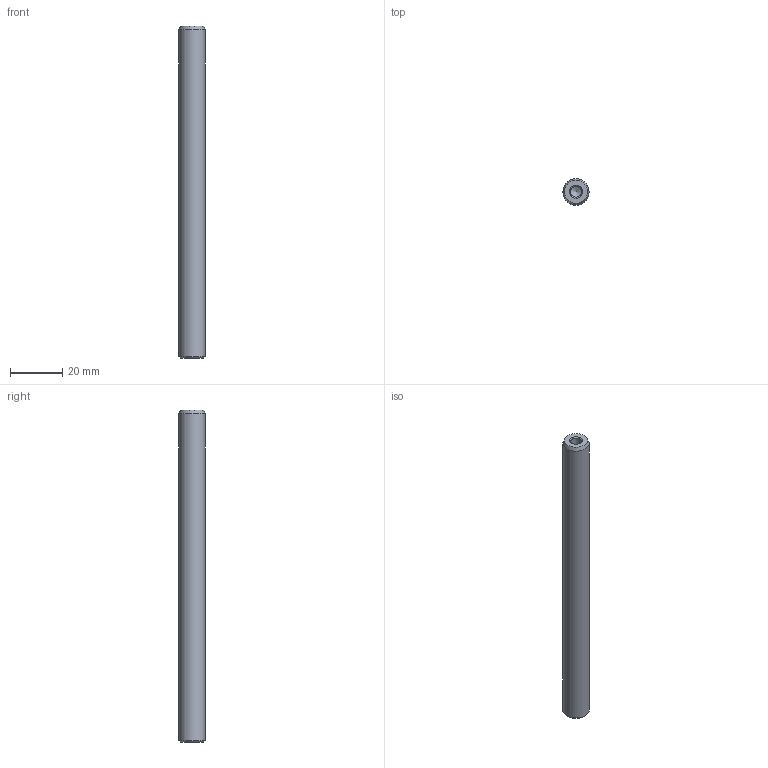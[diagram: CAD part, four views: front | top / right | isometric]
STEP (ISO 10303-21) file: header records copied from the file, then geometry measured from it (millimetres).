
FILE_DESCRIPTION( ( 'STEP AP214' ), '1' );
FILE_NAME( 'U:/Etudes/Top Solid/BIBLIO 3D AVM/STEP/PNEUMATIQUE/GUIDAGES/Accessoires/Colonnes/Ø10x127.step', '2004-12-22T12:21:01', ( ' ' ), ( ' ' ), 'XStep 1.0', ' ', ' ' );
FILE_SCHEMA( ( 'automotive_design' ) );
Length unit declared in the file: metre
Products named in the file (1): 1
Bounding box: 10 x 10 x 127 mm (x, y, z)
Volume: 9587.9 mm3; surface area: 4465.1 mm2
Topology: 1 solids, 1 shells, 13 faces, 27 edges, 16 vertices
Faces by surface type: cone 6, cylinder 5, plane 2
Full cylindrical faces by diameter (mm): 4.134 x4, 10 x1
Entity records: 382 total; most frequent: DIRECTION 52, CARTESIAN_POINT 40, AXIS2_PLACEMENT_3D 26, EDGE_LOOP 24, ORIENTED_EDGE 24, FACE_OUTER_BOUND 18, VERTEX_POINT 14, STYLED_ITEM 13
